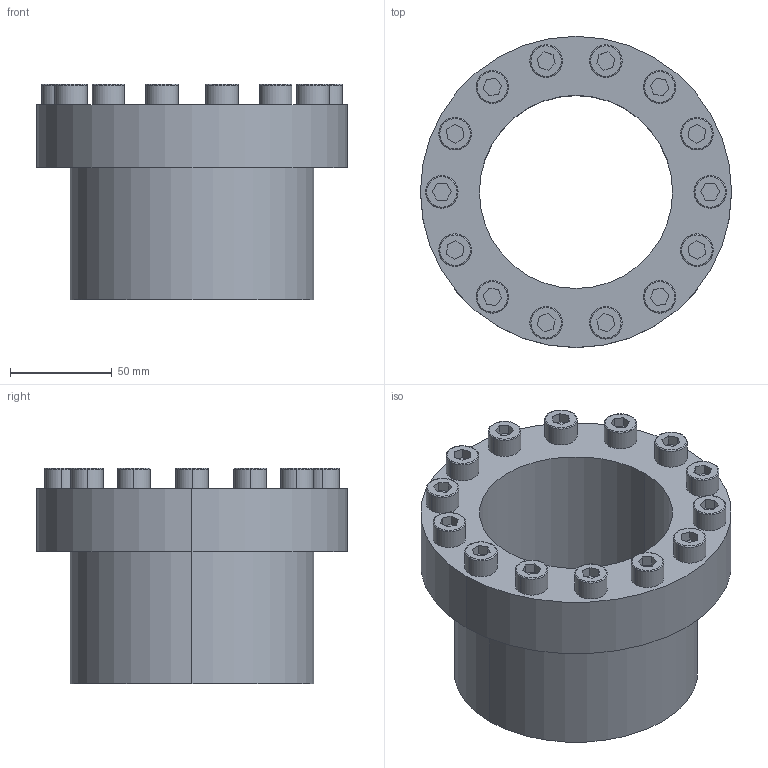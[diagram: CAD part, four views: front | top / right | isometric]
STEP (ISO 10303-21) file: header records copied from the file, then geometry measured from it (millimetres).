
FILE_DESCRIPTION (( 'STEP AP203' ), '1' );
FILE_NAME ('PL-C 95-120.STEP', '2021-10-22T08:47:08', ( '' ), ( '' ), 'SwSTEP 2.0', 'SolidWorks 2018', '' );
FILE_SCHEMA (( 'CONFIG_CONTROL_DESIGN' ));
Length unit declared in the file: millimetre
Products named in the file (1): PL-C 95-120
Bounding box: 153 x 153 x 106 mm (x, y, z)
Volume: 646393.9 mm3; surface area: 99434.3 mm2
Topology: 1 solids, 1 shells, 177 faces, 410 edges, 264 vertices
Faces by surface type: plane 115, cylinder 34, torus 28
Entity records: 5085 total; most frequent: DIRECTION 890, CARTESIAN_POINT 852, ORIENTED_EDGE 820, EDGE_CURVE 410, AXIS2_PLACEMENT_3D 302, LINE 286, VECTOR 286, VERTEX_POINT 264
